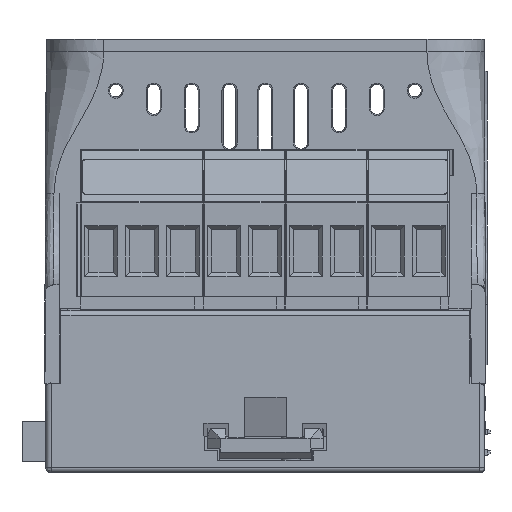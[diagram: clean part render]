
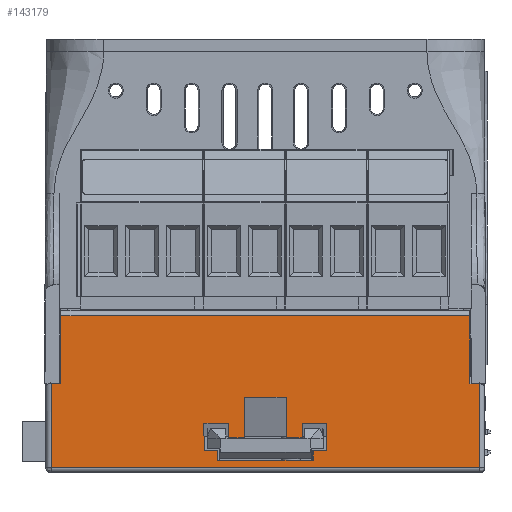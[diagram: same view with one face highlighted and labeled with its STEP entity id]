
A CAD part, front view. The second image highlights one B-rep face of the part: STEP entity #143179.
In plain terms, the highlighted planar face has unit normal (0, -1, 0).
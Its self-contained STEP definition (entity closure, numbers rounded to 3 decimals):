
#4523=FACE_BOUND('',#16134,.T.);
#8691=FACE_OUTER_BOUND('',#16133,.T.);
#16133=EDGE_LOOP('',(#108758,#108759,#108760,#108761,#108762,#108763,#108764,
#108765,#108766,#108767));
#16134=EDGE_LOOP('',(#108768,#108769,#108770,#108771,#108772,#108773,#108774,
#108775,#108776,#108777,#108778,#108779,#108780,#108781,#108782,#108783));
#28537=LINE('',#222162,#45349);
#28691=LINE('',#224025,#45503);
#28733=LINE('',#224316,#45545);
#28734=LINE('',#224321,#45546);
#28793=LINE('',#224461,#45605);
#28802=LINE('',#224479,#45614);
#28821=LINE('',#224520,#45633);
#28842=LINE('',#224562,#45654);
#28844=LINE('',#224567,#45656);
#29660=LINE('',#226619,#46472);
#29661=LINE('',#226622,#46473);
#29663=LINE('',#226626,#46475);
#29665=LINE('',#226630,#46477);
#29668=LINE('',#226635,#46480);
#29669=LINE('',#226637,#46481);
#29671=LINE('',#226641,#46483);
#29673=LINE('',#226645,#46485);
#29674=LINE('',#226648,#46486);
#29676=LINE('',#226651,#46488);
#29677=LINE('',#226655,#46489);
#29678=LINE('',#226660,#46490);
#29679=LINE('',#226662,#46491);
#29680=LINE('',#226665,#46492);
#29681=LINE('',#226667,#46493);
#29682=LINE('',#226669,#46494);
#29683=LINE('',#226671,#46495);
#45349=VECTOR('',#172602,1.);
#45503=VECTOR('',#173040,1.);
#45545=VECTOR('',#173148,1.);
#45546=VECTOR('',#173155,1.);
#45605=VECTOR('',#173278,1.);
#45614=VECTOR('',#173291,1.);
#45633=VECTOR('',#173316,1.);
#45654=VECTOR('',#173343,1.);
#45656=VECTOR('',#173347,1.);
#46472=VECTOR('',#175193,1.);
#46473=VECTOR('',#175196,1.);
#46475=VECTOR('',#175200,1.);
#46477=VECTOR('',#175204,1.);
#46480=VECTOR('',#175209,1.);
#46481=VECTOR('',#175212,1.);
#46483=VECTOR('',#175216,1.);
#46485=VECTOR('',#175220,1.);
#46486=VECTOR('',#175223,1.);
#46488=VECTOR('',#175227,1.);
#46489=VECTOR('',#175232,1.);
#46490=VECTOR('',#175239,1.);
#46491=VECTOR('',#175242,1.);
#46492=VECTOR('',#175247,1.);
#46493=VECTOR('',#175250,1.);
#46494=VECTOR('',#175253,1.);
#46495=VECTOR('',#175256,1.);
#60268=VERTEX_POINT('',#221335);
#60360=VERTEX_POINT('',#222161);
#60495=VERTEX_POINT('',#224011);
#60497=VERTEX_POINT('',#224024);
#60533=VERTEX_POINT('',#224315);
#60534=VERTEX_POINT('',#224319);
#60582=VERTEX_POINT('',#224458);
#60583=VERTEX_POINT('',#224460);
#60589=VERTEX_POINT('',#224476);
#60590=VERTEX_POINT('',#224478);
#60608=VERTEX_POINT('',#224517);
#60609=VERTEX_POINT('',#224519);
#60627=VERTEX_POINT('',#224560);
#60629=VERTEX_POINT('',#224566);
#61201=VERTEX_POINT('',#226558);
#61205=VERTEX_POINT('',#226591);
#61206=VERTEX_POINT('',#226617);
#61207=VERTEX_POINT('',#226621);
#61208=VERTEX_POINT('',#226625);
#61209=VERTEX_POINT('',#226629);
#61210=VERTEX_POINT('',#226633);
#61211=VERTEX_POINT('',#226639);
#61212=VERTEX_POINT('',#226643);
#61213=VERTEX_POINT('',#226647);
#61214=VERTEX_POINT('',#226654);
#61215=VERTEX_POINT('',#226658);
#76501=EDGE_CURVE('',#60360,#60268,#28537,.T.);
#76748=EDGE_CURVE('',#60497,#60495,#28691,.T.);
#76809=EDGE_CURVE('',#60533,#60360,#28733,.T.);
#76812=EDGE_CURVE('',#60495,#60534,#28734,.T.);
#76884=EDGE_CURVE('',#60583,#60582,#28793,.T.);
#76893=EDGE_CURVE('',#60589,#60590,#28802,.T.);
#76914=EDGE_CURVE('',#60608,#60609,#28821,.T.);
#76937=EDGE_CURVE('',#60582,#60627,#28842,.T.);
#76939=EDGE_CURVE('',#60629,#60583,#28844,.T.);
#77912=EDGE_CURVE('',#60608,#61206,#29660,.T.);
#77913=EDGE_CURVE('',#60609,#61207,#29661,.T.);
#77915=EDGE_CURVE('',#61208,#61207,#29663,.T.);
#77917=EDGE_CURVE('',#61209,#60629,#29665,.T.);
#77920=EDGE_CURVE('',#61210,#61209,#29668,.T.);
#77921=EDGE_CURVE('',#61210,#60589,#29669,.T.);
#77923=EDGE_CURVE('',#61211,#60590,#29671,.T.);
#77925=EDGE_CURVE('',#61211,#61212,#29673,.T.);
#77926=EDGE_CURVE('',#61213,#61212,#29674,.T.);
#77928=EDGE_CURVE('',#61213,#61206,#29676,.T.);
#77929=EDGE_CURVE('',#61214,#60533,#29677,.T.);
#77932=EDGE_CURVE('',#61215,#61214,#29678,.T.);
#77933=EDGE_CURVE('',#61215,#60534,#29679,.T.);
#77934=EDGE_CURVE('',#61201,#60497,#29680,.T.);
#77935=EDGE_CURVE('',#61205,#61201,#29681,.T.);
#77936=EDGE_CURVE('',#60268,#61205,#29682,.T.);
#77937=EDGE_CURVE('',#60627,#61208,#29683,.T.);
#108758=ORIENTED_EDGE('',*,*,#77936,.T.);
#108759=ORIENTED_EDGE('',*,*,#77935,.T.);
#108760=ORIENTED_EDGE('',*,*,#77934,.T.);
#108761=ORIENTED_EDGE('',*,*,#76748,.T.);
#108762=ORIENTED_EDGE('',*,*,#76812,.T.);
#108763=ORIENTED_EDGE('',*,*,#77933,.F.);
#108764=ORIENTED_EDGE('',*,*,#77932,.T.);
#108765=ORIENTED_EDGE('',*,*,#77929,.T.);
#108766=ORIENTED_EDGE('',*,*,#76809,.T.);
#108767=ORIENTED_EDGE('',*,*,#76501,.T.);
#108768=ORIENTED_EDGE('',*,*,#77928,.F.);
#108769=ORIENTED_EDGE('',*,*,#77926,.T.);
#108770=ORIENTED_EDGE('',*,*,#77925,.F.);
#108771=ORIENTED_EDGE('',*,*,#77923,.T.);
#108772=ORIENTED_EDGE('',*,*,#76893,.F.);
#108773=ORIENTED_EDGE('',*,*,#77921,.F.);
#108774=ORIENTED_EDGE('',*,*,#77920,.T.);
#108775=ORIENTED_EDGE('',*,*,#77917,.T.);
#108776=ORIENTED_EDGE('',*,*,#76939,.T.);
#108777=ORIENTED_EDGE('',*,*,#76884,.T.);
#108778=ORIENTED_EDGE('',*,*,#76937,.T.);
#108779=ORIENTED_EDGE('',*,*,#77937,.T.);
#108780=ORIENTED_EDGE('',*,*,#77915,.T.);
#108781=ORIENTED_EDGE('',*,*,#77913,.F.);
#108782=ORIENTED_EDGE('',*,*,#76914,.F.);
#108783=ORIENTED_EDGE('',*,*,#77912,.T.);
#129429=PLANE('',#151347);
#143179=ADVANCED_FACE('',(#8691,#4523),#129429,.F.);
#151347=AXIS2_PLACEMENT_3D('',#226672,#175257,#175258);
#172602=DIRECTION('',(-1.,0.,0.));
#173040=DIRECTION('',(-1.,0.,0.));
#173148=DIRECTION('',(-1.,0.,0.));
#173155=DIRECTION('',(-1.,0.,0.));
#173278=DIRECTION('',(1.,0.,0.));
#173291=DIRECTION('',(0.009,0.,-1.));
#173316=DIRECTION('',(0.009,0.,1.));
#173343=DIRECTION('',(0.,0.,-1.));
#173347=DIRECTION('',(0.,0.,1.));
#175193=DIRECTION('',(-1.,0.,0.));
#175196=DIRECTION('',(-1.,0.,-0.009));
#175200=DIRECTION('',(-0.009,0.,1.));
#175204=DIRECTION('',(1.,0.,0.));
#175209=DIRECTION('',(-0.009,0.,-1.));
#175212=DIRECTION('',(-1.,0.,0.009));
#175216=DIRECTION('',(-1.,0.,0.));
#175220=DIRECTION('',(0.009,0.,-1.));
#175223=DIRECTION('',(-1.,0.,0.));
#175227=DIRECTION('',(0.009,0.,1.));
#175232=DIRECTION('',(0.,0.,-1.));
#175239=DIRECTION('',(-1.,0.,0.));
#175242=DIRECTION('',(0.,0.,-1.));
#175247=DIRECTION('',(0.,0.,1.));
#175250=DIRECTION('',(1.,0.,0.));
#175253=DIRECTION('',(0.,0.,-1.));
#175256=DIRECTION('',(1.,0.,0.));
#175257=DIRECTION('center_axis',(0.,1.,0.));
#175258=DIRECTION('ref_axis',(0.,0.,
1.));
#221335=CARTESIAN_POINT('',(-26.15,-44.644,4.871));
#222161=CARTESIAN_POINT('',(-25.14,-44.644,4.871));
#222162=CARTESIAN_POINT('',(-25.908,-44.644,4.871));
#224011=CARTESIAN_POINT('',(25.14,-44.644,4.871));
#224024=CARTESIAN_POINT('',(26.15,-44.644,4.871));
#224025=CARTESIAN_POINT('',(25.908,-44.644,4.871));
#224315=CARTESIAN_POINT('',(-24.941,-44.644,4.871));
#224316=CARTESIAN_POINT('',(-25.908,-44.644,4.871));
#224319=CARTESIAN_POINT('',(24.941,-44.644,4.871));
#224321=CARTESIAN_POINT('',(25.908,-44.644,4.871));
#224458=CARTESIAN_POINT('',(2.55,-44.644,3.175));
#224460=CARTESIAN_POINT('',(-2.55,-44.644,3.175));
#224461=CARTESIAN_POINT('',(38.979,-44.644,3.175));
#224476=CARTESIAN_POINT('',(-7.496,-44.644,0.011));
#224478=CARTESIAN_POINT('',(-7.467,-44.644,-3.32));
#224479=CARTESIAN_POINT('',(-7.645,-44.644,17.1));
#224517=CARTESIAN_POINT('',(7.467,-44.644,-3.32));
#224519=CARTESIAN_POINT('',(7.496,-44.644,0.011));
#224520=CARTESIAN_POINT('',(7.645,-44.644,17.1));
#224560=CARTESIAN_POINT('',(2.55,-44.644,-1.725));
#224562=CARTESIAN_POINT('',(2.55,-44.644,6.016));
#224566=CARTESIAN_POINT('',(-2.55,-44.644,-1.725));
#224567=CARTESIAN_POINT('',(-2.55,-44.644,6.016));
#226558=CARTESIAN_POINT('',(26.15,-44.644,-5.4));
#226591=CARTESIAN_POINT('',(-26.15,-44.644,-5.4));
#226617=CARTESIAN_POINT('',(5.867,-44.644,-3.32));
#226619=CARTESIAN_POINT('',(3.728,-44.644,-3.32));
#226621=CARTESIAN_POINT('',(4.483,-44.644,-0.015));
#226622=CARTESIAN_POINT('',(3.784,-44.644,-0.021));
#226625=CARTESIAN_POINT('',(4.498,-44.644,-1.725));
#226626=CARTESIAN_POINT('',(4.443,-44.644,4.558));
#226629=CARTESIAN_POINT('',(-4.498,-44.644,-1.725));
#226630=CARTESIAN_POINT('',(38.979,-44.644,-1.725));
#226633=CARTESIAN_POINT('',(-4.483,-44.644,-0.015));
#226635=CARTESIAN_POINT('',(-4.443,-44.644,4.558));
#226637=CARTESIAN_POINT('',(-3.784,-44.644,-0.021));
#226639=CARTESIAN_POINT('',(-5.867,-44.644,-3.32));
#226641=CARTESIAN_POINT('',(-3.728,-44.644,-3.32));
#226643=CARTESIAN_POINT('',(-5.857,-44.644,-4.5));
#226645=CARTESIAN_POINT('',(-5.855,-44.644,-4.646));
#226647=CARTESIAN_POINT('',(5.857,-44.644,-4.5));
#226648=CARTESIAN_POINT('',(38.979,-44.644,-4.5));
#226651=CARTESIAN_POINT('',(5.855,-44.644,-4.646));
#226654=CARTESIAN_POINT('',(-24.941,-44.644,13.156));
#226655=CARTESIAN_POINT('',(-24.941,-44.644,17.506));
#226658=CARTESIAN_POINT('',(24.941,-44.644,13.156));
#226660=CARTESIAN_POINT('',(38.979,-44.644,13.156));
#226662=CARTESIAN_POINT('',(24.941,-44.644,17.506));
#226665=CARTESIAN_POINT('',(26.15,-44.644,17.506));
#226667=CARTESIAN_POINT('',(26.15,-44.644,-5.4));
#226669=CARTESIAN_POINT('',(-26.15,-44.644,17.506));
#226671=CARTESIAN_POINT('',(-38.979,-44.644,-1.725));
#226672=CARTESIAN_POINT('Origin',(38.979,-44.644,17.506));
